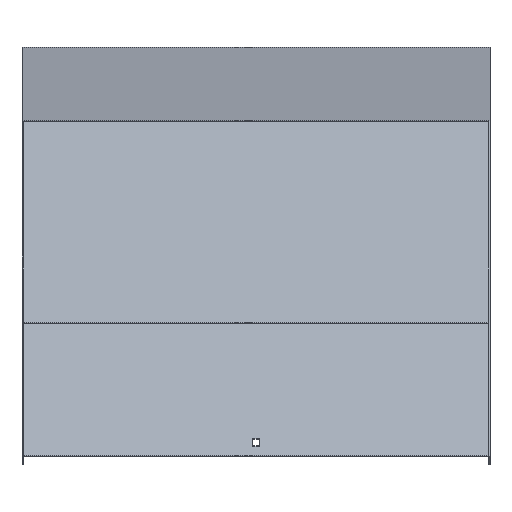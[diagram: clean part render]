
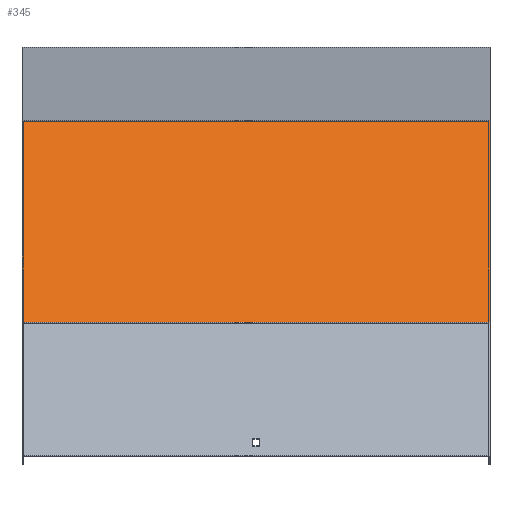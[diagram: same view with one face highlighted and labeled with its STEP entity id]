
A CAD part, top view. The second image highlights one B-rep face of the part: STEP entity #345.
In plain terms, the highlighted planar face has unit normal (0, 0.707, 0.707).
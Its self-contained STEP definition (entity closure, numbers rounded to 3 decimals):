
#34 = EDGE_CURVE ( 'NONE', #204, #140, #462, .T. ) ;
#44 = AXIS2_PLACEMENT_3D ( 'NONE', #375, #684, #605 ) ;
#100 = LINE ( 'NONE', #633, #540 ) ;
#106 = ORIENTED_EDGE ( 'NONE', *, *, #34, .F. ) ;
#140 = VERTEX_POINT ( 'NONE', #886 ) ;
#155 = CARTESIAN_POINT ( 'NONE',  ( 251.5, -63.245, 465.954 ) ) ;
#204 = VERTEX_POINT ( 'NONE', #514 ) ;
#236 = CARTESIAN_POINT ( 'NONE',  ( 251.5, -59.455, 462.165 ) ) ;
#252 = CARTESIAN_POINT ( 'NONE',  ( -251.5, -63.245, 465.954 ) ) ;
#255 = DIRECTION ( 'NONE',  ( -1., 0., 0. ) ) ;
#327 = DIRECTION ( 'NONE',  ( 0., -0.707, 0.707 ) ) ;
#345 = ADVANCED_FACE ( 'NONE', ( #676 ), #831, .F. ) ;
#375 = CARTESIAN_POINT ( 'NONE',  ( 251.5, -63.245, 465.954 ) ) ;
#377 = EDGE_CURVE ( 'NONE', #511, #848, #779, .T. ) ;
#378 = ORIENTED_EDGE ( 'NONE', *, *, #377, .T. ) ;
#386 = ORIENTED_EDGE ( 'NONE', *, *, #449, .F. ) ;
#405 = VECTOR ( 'NONE', #327, 1000. ) ;
#415 = ORIENTED_EDGE ( 'NONE', *, *, #840, .T. ) ;
#449 = EDGE_CURVE ( 'NONE', #140, #848, #100, .T. ) ;
#462 = LINE ( 'NONE', #155, #578 ) ;
#511 = VERTEX_POINT ( 'NONE', #541 ) ;
#514 = CARTESIAN_POINT ( 'NONE',  ( 251.5, -59.455, 462.165 ) ) ;
#540 = VECTOR ( 'NONE', #255, 1000. ) ;
#541 = CARTESIAN_POINT ( 'NONE',  ( -251.5, -59.455, 462.165 ) ) ;
#547 = DIRECTION ( 'NONE',  ( -1., 0., 0. ) ) ;
#578 = VECTOR ( 'NONE', #830, 1000. ) ;
#605 = DIRECTION ( 'NONE',  ( 0., 0.707, -0.707 ) ) ;
#633 = CARTESIAN_POINT ( 'NONE',  ( 251.5, -276.532, 679.241 ) ) ;
#676 = FACE_OUTER_BOUND ( 'NONE', #714, .T. ) ;
#684 = DIRECTION ( 'NONE',  ( 0., -0.707, -0.707 ) ) ;
#687 = LINE ( 'NONE', #236, #724 ) ;
#714 = EDGE_LOOP ( 'NONE', ( #378, #386, #106, #415 ) ) ;
#724 = VECTOR ( 'NONE', #547, 1000. ) ;
#779 = LINE ( 'NONE', #252, #405 ) ;
#830 = DIRECTION ( 'NONE',  ( 0., -0.707, 0.707 ) ) ;
#831 = PLANE ( 'NONE',  #44 ) ;
#840 = EDGE_CURVE ( 'NONE', #204, #511, #687, .T. ) ;
#843 = CARTESIAN_POINT ( 'NONE',  ( -251.5, -276.532, 679.241 ) ) ;
#848 = VERTEX_POINT ( 'NONE', #843 ) ;
#886 = CARTESIAN_POINT ( 'NONE',  ( 251.5, -276.532, 679.241 ) ) ;
